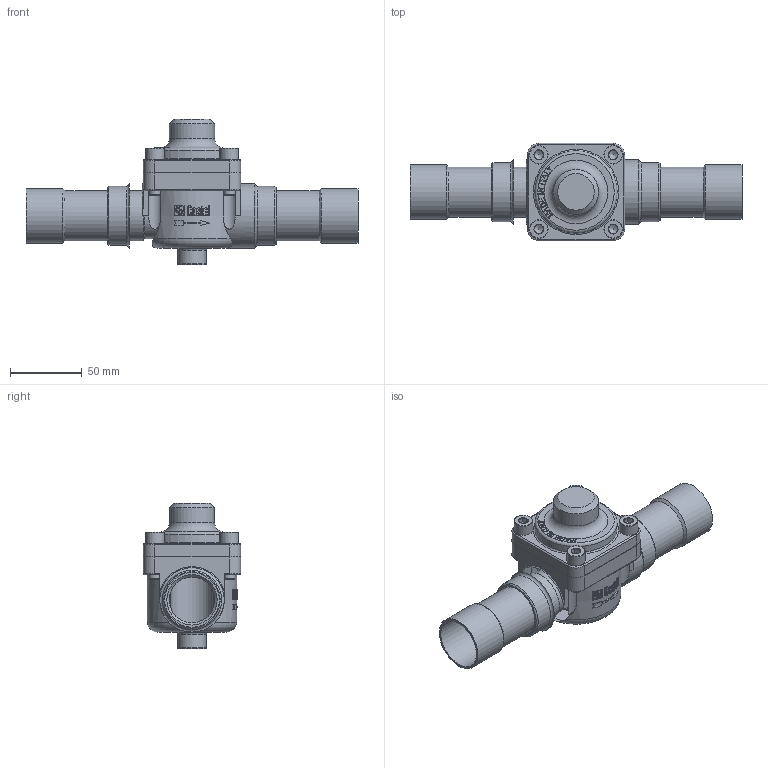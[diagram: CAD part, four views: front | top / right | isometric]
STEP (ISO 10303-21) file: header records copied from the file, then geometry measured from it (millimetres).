
FILE_DESCRIPTION(/* description */ (''),/* implementation_level */ '2;1');
FILE_NAME(/* name */ '3142_11',/* time_stamp */ '2009-04-17T15:57:01+02:00',/* author */ (''),/* organization */ (''),/* preprocessor_version */ 'ST-DEVELOPER v9',/* originating_system */ 'UGS - NX 4.0',/* authorisation */ '');
FILE_SCHEMA (('AUTOMOTIVE_DESIGN { 1 0 10303 214 1 1 1 1 }'));
Length unit declared in the file: millimetre
Products named in the file (1): MMan9A298ggy
Bounding box: 232 x 68 x 101.4 mm (x, y, z)
Volume: 201608.1 mm3; surface area: 112544.9 mm2
Topology: 9 solids, 9 shells, 546 faces, 1372 edges, 891 vertices
Faces by surface type: plane 271, cylinder 156, cone 64, torus 34, extrusion 19, bspline 2
Full cylindrical faces by diameter (mm): 6.8 x4, 8 x4, 8.55 x1, 9 x8, 13 x4, 15 x1, 20 x1, 22 x1, 30 x1, 31.5 x1, 32 x4, 34 x1, 35 x4, 35.2 x2, 36.5 x1, 38.2 x2, 41.3 x2, 45 x2, 48.5 x1, 53.5 x1, 55.2 x1, 55.5 x1, 55.6 x1, 57.5 x1
Entity records: 17688 total; most frequent: CARTESIAN_POINT 5615, ORIENTED_EDGE 2482, DIRECTION 2205, EDGE_CURVE 1241, VERTEX_POINT 869, AXIS2_PLACEMENT_3D 854, EDGE_LOOP 733, ADVANCED_FACE 546
